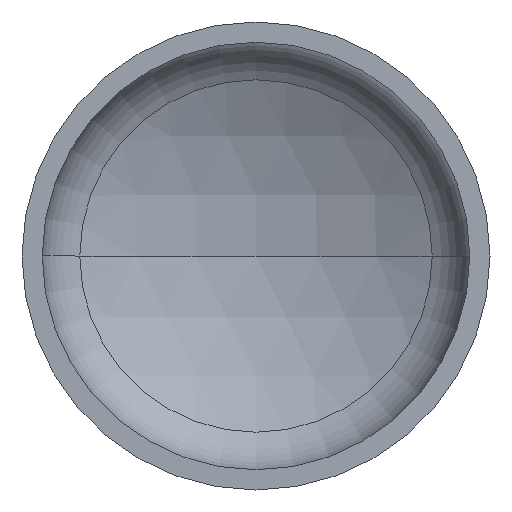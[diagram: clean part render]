
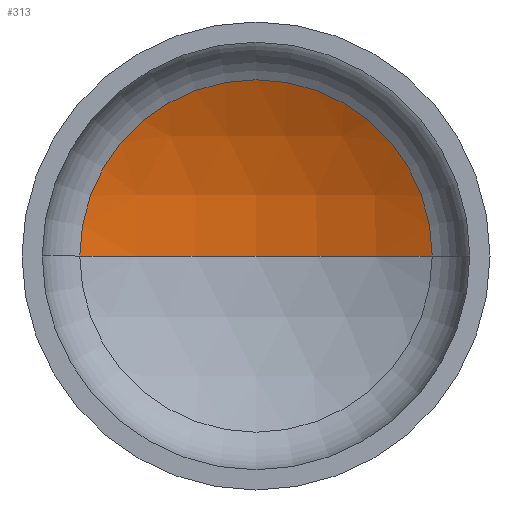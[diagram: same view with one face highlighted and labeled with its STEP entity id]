
A CAD part, front view. The second image highlights one B-rep face of the part: STEP entity #313.
In plain terms, the highlighted spherical face has radius 254 mm.
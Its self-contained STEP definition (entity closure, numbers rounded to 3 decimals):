
#6 = ORIENTED_EDGE ( 'NONE', *, *, #166, .T. ) ;
#15 = EDGE_LOOP ( 'NONE', ( #17, #6, #98 ) ) ;
#17 = ORIENTED_EDGE ( 'NONE', *, *, #169, .F. ) ;
#37 = AXIS2_PLACEMENT_3D ( 'NONE', #173, #393, #108 ) ;
#42 = VERTEX_POINT ( 'NONE', #294 ) ;
#68 = AXIS2_PLACEMENT_3D ( 'NONE', #223, #210, #222 ) ;
#77 = AXIS2_PLACEMENT_3D ( 'NONE', #302, #143, #183 ) ;
#86 = VERTEX_POINT ( 'NONE', #228 ) ;
#89 = AXIS2_PLACEMENT_3D ( 'NONE', #186, #213, #375 ) ;
#98 = ORIENTED_EDGE ( 'NONE', *, *, #159, .T. ) ;
#108 = DIRECTION ( 'NONE',  ( -1., 0., 0. ) ) ;
#143 = DIRECTION ( 'NONE',  ( 0., 0., -1. ) ) ;
#157 = VERTEX_POINT ( 'NONE', #324 ) ;
#159 = EDGE_CURVE ( 'NONE', #157, #42, #360, .T. ) ;
#166 = EDGE_CURVE ( 'NONE', #86, #157, #293, .T. ) ;
#169 = EDGE_CURVE ( 'NONE', #86, #42, #287, .T. ) ;
#173 = CARTESIAN_POINT ( 'NONE',  ( 0., -133.946, 0. ) ) ;
#183 = DIRECTION ( 'NONE',  ( -1., 0., 0. ) ) ;
#186 = CARTESIAN_POINT ( 'NONE',  ( 0., 88.859, 0. ) ) ;
#210 = DIRECTION ( 'NONE',  ( 0., 0., 1. ) ) ;
#213 = DIRECTION ( 'NONE',  ( 0., -1., 0. ) ) ;
#220 = SPHERICAL_SURFACE ( 'NONE', #37, 254. ) ;
#222 = DIRECTION ( 'NONE',  ( 1., 0., 0. ) ) ;
#223 = CARTESIAN_POINT ( 'NONE',  ( 0., -133.946, 0. ) ) ;
#228 = CARTESIAN_POINT ( 'NONE',  ( 0., 120.054, 0. ) ) ;
#275 = FACE_OUTER_BOUND ( 'NONE', #15, .T. ) ;
#287 = CIRCLE ( 'NONE', #68, 254. ) ;
#293 = CIRCLE ( 'NONE', #77, 254. ) ;
#294 = CARTESIAN_POINT ( 'NONE',  ( -121.957, 88.859, 0. ) ) ;
#302 = CARTESIAN_POINT ( 'NONE',  ( 0., -133.946, 0. ) ) ;
#313 = ADVANCED_FACE ( 'NONE', ( #275 ), #220, .F. ) ;
#324 = CARTESIAN_POINT ( 'NONE',  ( 121.957, 88.859, 0. ) ) ;
#360 = CIRCLE ( 'NONE', #89, 121.957 ) ;
#375 = DIRECTION ( 'NONE',  ( 1., 0., 0. ) ) ;
#393 = DIRECTION ( 'NONE',  ( 0., 0., -1. ) ) ;
